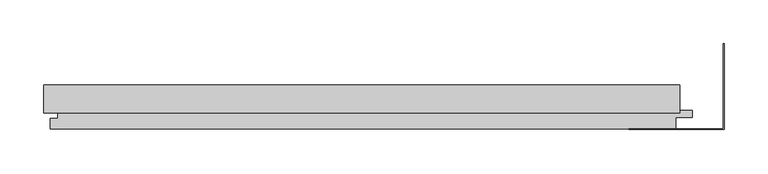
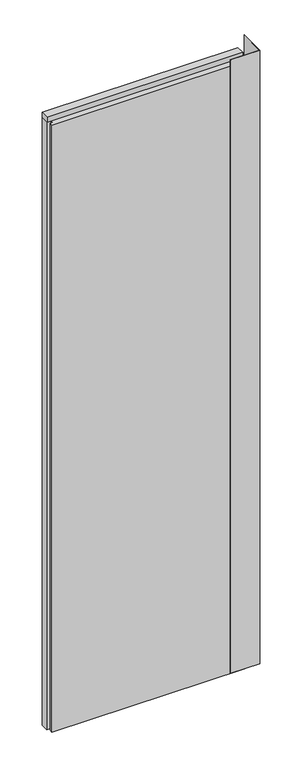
"""IFC4 building model written with IfcOpenShell, lengths in millimetres: plate geometry, Trimo_Qbiss Screen_Normal Panel-VERTICAL : HR - FB-F."""

from ifc_helpers import new_model, si_unit, frame, origin, place, context, project, spatial, polyline, outline, extrude, source, transform, mapped, element, save


def plate_add96591(model_context):
    return source(origin(), model_context, "Body", "SweptSolid", [
        extrude(outline(polyline([(349.0, 76.0), (349.0, 173.0), (349.8, 173.0), (349.8, 75.2), (241.0, 75.2), (241.0, 76.0), (349.0, 76.0)])), frame((0.0, 0.0, 12.5), z_axis=(0.0, 0.0, 1.0), x_axis=(1.0, 0.0, 0.0)), (0.0, 0.0, 1.0), 2400.0),
        extrude(outline(polyline([(-425.0, 93.9), (-425.0, 126.0), (299.0, 126.0), (299.0, 93.9), (-425.0, 93.9)])), frame((0.0, 0.0, 2390.5), z_axis=(0.0, 0.0, 1.0), x_axis=(1.0, 0.0, 0.0)), (0.0, 0.0, 1.0), 19.0),
        extrude(outline(polyline([(295.0, 97.0), (313.5, 97.0), (313.5, 89.0), (295.0, 89.0), (295.0, 76.0), (-418.0, 76.0), (-418.0, 88.0), (-409.5, 88.0), (-409.5, 98.0), (-425.0, 98.0), (-425.0, 126.0), (295.0, 126.0), (295.0, 97.0)])), frame((0.0, 0.0, 12.5), z_axis=(0.0, 0.0, 1.0), x_axis=(1.0, 0.0, 0.0)), (0.0, 0.0, 1.0), 2375.0),
    ])


if __name__ == "__main__":
    model = new_model("IFC4")
    model_context = context("Model", 3, world=origin())
    ifc_project = project(units=[si_unit("LENGTHUNIT", "METRE", prefix="MILLI")], contexts=[model_context])
    site = spatial("IfcSite", under=ifc_project)
    building = spatial("IfcBuilding", under=site)
    placement = place(None, origin())
    plate_shape = plate_add96591(model_context)
    element("IfcPlate", 1, ObjectType="Trimo_Qbiss Screen_Normal Panel-VERTICAL : HR - FB-F", at=placement, inside=building, context=model_context, shape_type="MappedRepresentation", body=[
        mapped(plate_shape, transform((0.0, 0.0, 0.0), x_axis=(1.0, 0.0, 0.0), y_axis=(0.0, 1.0, 0.0), z_axis=(0.0, 0.0, 1.0))),
    ])
    save(model, "model.ifc")
